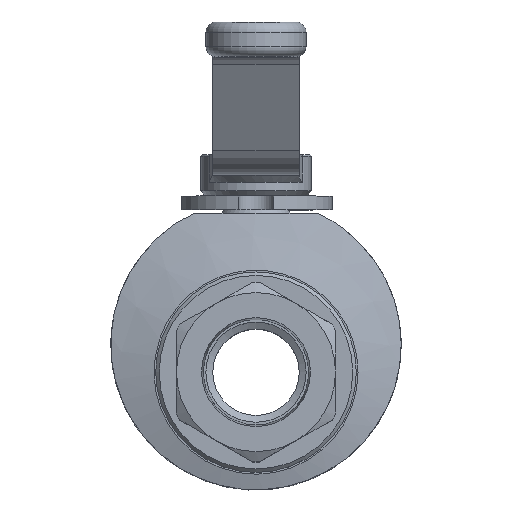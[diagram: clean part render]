
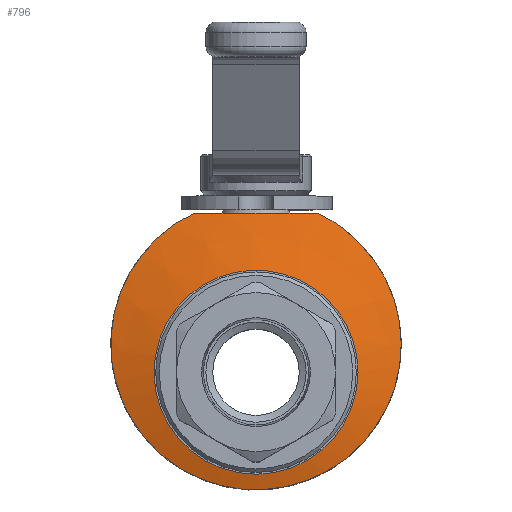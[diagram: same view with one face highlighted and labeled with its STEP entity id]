
A CAD part, top view. The second image highlights one B-rep face of the part: STEP entity #796.
In plain terms, the highlighted conical face has half-angle 75 degrees and reference radius 29.5 mm.
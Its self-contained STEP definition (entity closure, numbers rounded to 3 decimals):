
#796 = ADVANCED_FACE( 'NONE', ( #1672, #1673 ), #1674, .T. );
#1672 = FACE_OUTER_BOUND( '', #2582, .T. );
#1673 = FACE_BOUND( '', #2583, .T. );
#1674 = CONICAL_SURFACE( '', #2584, 29.5, 1.309 );
#2582 = EDGE_LOOP( '', ( #4448, #4449 ) );
#2583 = EDGE_LOOP( '', ( #4450 ) );
#2584 = AXIS2_PLACEMENT_3D( '', #4451, #4452, #4453 );
#4448 = ORIENTED_EDGE( '', *, *, #5049, .F. );
#4449 = ORIENTED_EDGE( '', *, *, #5333, .T. );
#4450 = ORIENTED_EDGE( '', *, *, #4736, .F. );
#4451 = CARTESIAN_POINT( '', ( 0., -8., 35. ) );
#4452 = DIRECTION( '', ( 0., 0., -1. ) );
#4453 = DIRECTION( '', ( -1., 0., 0. ) );
#4736 = EDGE_CURVE( 'NONE', #5497, #5497, #5498, .T. );
#5049 = EDGE_CURVE( 'NONE', #6005, #6006, #6007, .T. );
#5333 = EDGE_CURVE( 'NONE', #6005, #6006, #6388, .T. );
#5497 = VERTEX_POINT( '', #6693 );
#5498 = CIRCLE( '', #6694, 29.5 );
#6005 = VERTEX_POINT( 'NONE', #7565 );
#6006 = VERTEX_POINT( 'NONE', #7566 );
#6007 = B_SPLINE_CURVE_WITH_KNOTS( '', 2, ( #7567, #7568, #7569, #7570, #7571, #7572, #7573, #7574, #7575 ), .UNSPECIFIED., .F., .F., ( 3, 2, 2, 2, 3 ), ( 0., 0.25, 0.5, 0.75, 1. ), .UNSPECIFIED. );
#6388 = B_SPLINE_CURVE_WITH_KNOTS( '', 3, ( #8380, #8381, #8382, #8383, #8384, #8385, #8386, #8387, #8388, #8389, #8390, #8391, #8392, #8393, #8394, #8395, #8396, #8397, #8398, #8399, #8400, #8401, #8402, #8403, #8404, #8405, #8406, #8407, #8408, #8409, #8410, #8411, #8412, #8413, #8414, #8415, #8416, #8417, #8418, #8419, #8420, #8421, #8422, #8423, #8424, #8425, #8426, #8427 ), .UNSPECIFIED., .F., .F., ( 4, 1, 1, 1, 1, 1, 1, 1, 1, 1, 1, 1, 1, 1, 1, 1, 1, 1, 1, 1, 1, 1, 1, 1, 1, 1, 1, 1, 1, 1, 1, 1, 1, 1, 1, 1, 1, 1, 1, 1, 1, 1, 1, 1, 1, 4 ), ( 0., 0.004, 0.008, 0.016, 0.031, 0.047, 0.062, 0.093, 0.125, 0.14, 0.156, 0.187, 0.216, 0.245, 0.25, 0.284, 0.312, 0.345, 0.375, 0.407, 0.437, 0.469, 0.5, 0.531, 0.562, 0.593, 0.625, 0.655, 0.688, 0.716, 0.75, 0.781, 0.802, 0.813, 0.844, 0.86, 0.875, 0.907, 0.937, 0.953, 0.969, 0.977, 0.984, 0.99, 0.995, 1. ), .UNSPECIFIED. );
#6693 = CARTESIAN_POINT( '', ( 29.5, -8., 35. ) );
#6694 = AXIS2_PLACEMENT_3D( '', #8621, #8622, #8623 );
#7565 = CARTESIAN_POINT( '', ( -17.889, 38., 29.68 ) );
#7566 = CARTESIAN_POINT( '', ( 17.889, 38., 29.68 ) );
#7567 = CARTESIAN_POINT( '', ( -17.889, 38., 29.68 ) );
#7568 = CARTESIAN_POINT( '', ( -13.3, 38., 30.125 ) );
#7569 = CARTESIAN_POINT( '', ( -8.944, 38., 30.348 ) );
#7570 = CARTESIAN_POINT( '', ( -4.432, 38., 30.579 ) );
#7571 = CARTESIAN_POINT( '', ( 0., 38., 30.579 ) );
#7572 = CARTESIAN_POINT( '', ( 4.43, 38., 30.579 ) );
#7573 = CARTESIAN_POINT( '', ( 8.944, 38., 30.348 ) );
#7574 = CARTESIAN_POINT( '', ( 13.299, 38., 30.125 ) );
#7575 = CARTESIAN_POINT( '', ( 17.889, 38., 29.68 ) );
#8380 = CARTESIAN_POINT( '', ( -17.889, 38., 29.68 ) );
#8381 = CARTESIAN_POINT( '', ( -18.155, 37.873, 29.685 ) );
#8382 = CARTESIAN_POINT( '', ( -18.688, 37.618, 29.696 ) );
#8383 = CARTESIAN_POINT( '', ( -19.74, 37.079, 29.72 ) );
#8384 = CARTESIAN_POINT( '', ( -21.552, 36.083, 29.763 ) );
#8385 = CARTESIAN_POINT( '', ( -24.04, 34.499, 29.833 ) );
#8386 = CARTESIAN_POINT( '', ( -26.863, 32.35, 29.927 ) );
#8387 = CARTESIAN_POINT( '', ( -30.316, 29.229, 30.066 ) );
#8388 = CARTESIAN_POINT( '', ( -34.192, 24.732, 30.268 ) );
#8389 = CARTESIAN_POINT( '', ( -37.24, 19.68, 30.5 ) );
#8390 = CARTESIAN_POINT( '', ( -39.173, 15.287, 30.706 ) );
#8391 = CARTESIAN_POINT( '', ( -40.706, 10.815, 30.917 ) );
#8392 = CARTESIAN_POINT( '', ( -41.867, 5.162, 31.191 ) );
#8393 = CARTESIAN_POINT( '', ( -42.14, -1.55, 31.525 ) );
#8394 = CARTESIAN_POINT( '', ( -41.599, -6.26, 31.766 ) );
#8395 = CARTESIAN_POINT( '', ( -40.558, -11.254, 32.026 ) );
#8396 = CARTESIAN_POINT( '', ( -38.99, -16.151, 32.286 ) );
#8397 = CARTESIAN_POINT( '', ( -35.665, -22.541, 32.639 ) );
#8398 = CARTESIAN_POINT( '', ( -31.501, -28.083, 32.953 ) );
#8399 = CARTESIAN_POINT( '', ( -26.29, -33.005, 33.243 ) );
#8400 = CARTESIAN_POINT( '', ( -20.452, -36.914, 33.478 ) );
#8401 = CARTESIAN_POINT( '', ( -13.936, -39.829, 33.658 ) );
#8402 = CARTESIAN_POINT( '', ( -7.088, -41.601, 33.769 ) );
#8403 = CARTESIAN_POINT( '', ( -0.005, -42.198, 33.807 ) );
#8404 = CARTESIAN_POINT( '', ( 7.078, -41.603, 33.769 ) );
#8405 = CARTESIAN_POINT( '', ( 13.926, -39.833, 33.658 ) );
#8406 = CARTESIAN_POINT( '', ( 20.442, -36.919, 33.478 ) );
#8407 = CARTESIAN_POINT( '', ( 26.28, -33.013, 33.243 ) );
#8408 = CARTESIAN_POINT( '', ( 31.492, -28.093, 32.954 ) );
#8409 = CARTESIAN_POINT( '', ( 35.655, -22.558, 32.64 ) );
#8410 = CARTESIAN_POINT( '', ( 38.985, -16.164, 32.287 ) );
#8411 = CARTESIAN_POINT( '', ( 41.161, -9.381, 31.927 ) );
#8412 = CARTESIAN_POINT( '', ( 42.039, -2.925, 31.594 ) );
#8413 = CARTESIAN_POINT( '', ( 42.012, 1.807, 31.358 ) );
#8414 = CARTESIAN_POINT( '', ( 41.59, 6.511, 31.125 ) );
#8415 = CARTESIAN_POINT( '', ( 40.706, 10.815, 30.917 ) );
#8416 = CARTESIAN_POINT( '', ( 39.172, 15.287, 30.706 ) );
#8417 = CARTESIAN_POINT( '', ( 37.239, 19.681, 30.5 ) );
#8418 = CARTESIAN_POINT( '', ( 34.192, 24.732, 30.268 ) );
#8419 = CARTESIAN_POINT( '', ( 30.316, 29.23, 30.066 ) );
#8420 = CARTESIAN_POINT( '', ( 26.863, 32.35, 29.927 ) );
#8421 = CARTESIAN_POINT( '', ( 24.505, 34.145, 29.848 ) );
#8422 = CARTESIAN_POINT( '', ( 22.545, 35.451, 29.791 ) );
#8423 = CARTESIAN_POINT( '', ( 21.198, 36.268, 29.755 ) );
#8424 = CARTESIAN_POINT( '', ( 20.001, 36.937, 29.726 ) );
#8425 = CARTESIAN_POINT( '', ( 18.955, 37.487, 29.702 ) );
#8426 = CARTESIAN_POINT( '', ( 18.244, 37.829, 29.687 ) );
#8427 = CARTESIAN_POINT( '', ( 17.889, 38., 29.68 ) );
#8621 = CARTESIAN_POINT( '', ( 0., -8., 35. ) );
#8622 = DIRECTION( '', ( 0., 0., 1. ) );
#8623 = DIRECTION( '', ( 1., 0., 0. ) );
